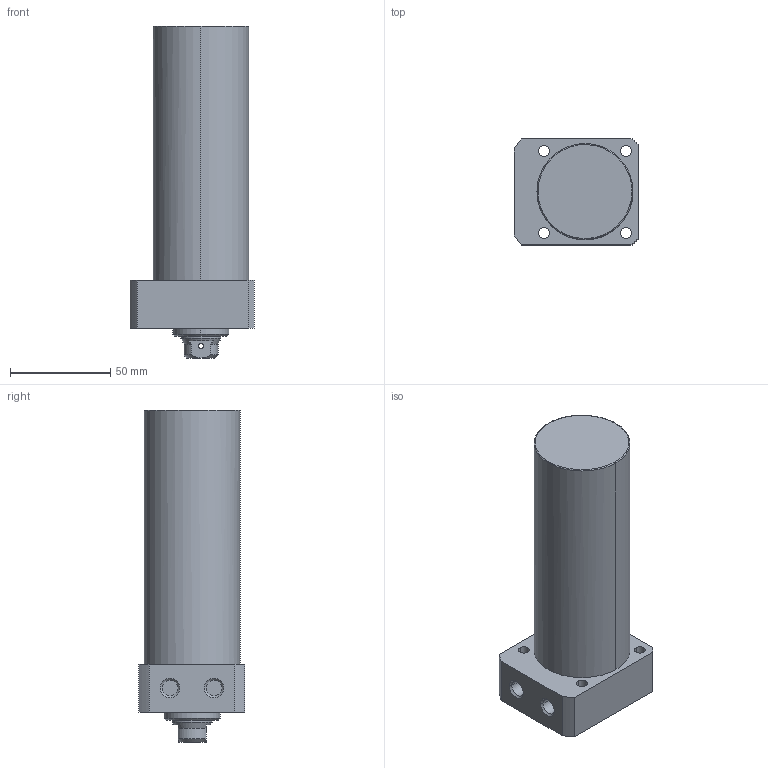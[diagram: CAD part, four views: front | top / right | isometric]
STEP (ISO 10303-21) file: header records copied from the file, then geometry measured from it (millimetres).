
FILE_DESCRIPTION((' '),'2;1');
FILE_NAME( 'TLLR-048CB-100.STEP.stp', '2025-10-24T16:34:33', (' '), ('--- Datakit www.datakit.com---'), ' Datakit CrossCadWare V2024.1 Dec 21 2023', 'Mastercam 2025', ' ');
FILE_SCHEMA(('AUTOMOTIVE_DESIGN { 1 0 10303 214 1 1 1 1 }'));
Length unit declared in the file: millimetre
Products named in the file (1): TLLR-048CB-100
Bounding box: 62 x 53 x 166 mm (x, y, z)
Volume: 308128 mm3; surface area: 34553.2 mm2
Topology: 1 solids, 1 shells, 67 faces, 197 edges, 136 vertices
Faces by surface type: cylinder 32, plane 19, cone 14, torus 2
Entity records: 3066 total; most frequent: CARTESIAN_POINT 1147, DIRECTION 426, ORIENTED_EDGE 390, EDGE_CURVE 195, AXIS2_PLACEMENT_3D 179, VERTEX_POINT 136, CIRCLE 111, EDGE_LOOP 85
